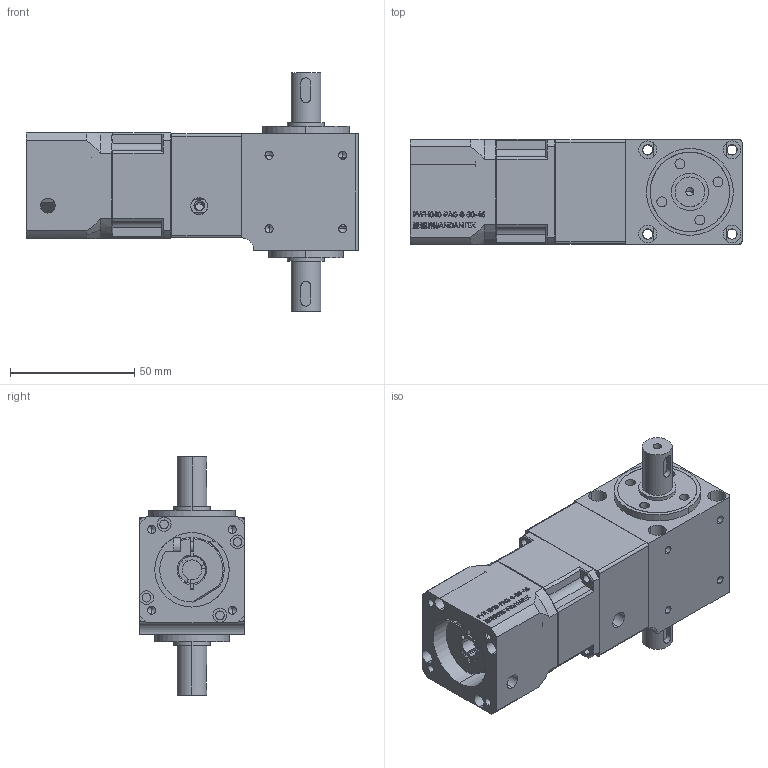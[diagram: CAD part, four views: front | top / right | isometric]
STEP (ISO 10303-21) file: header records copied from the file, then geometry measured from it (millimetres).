
FILE_DESCRIPTION (( 'STEP AP203' ), '1' );
FILE_NAME ('PVFH040邧粣-PAGS-8-30-46.STEP', '2023-07-11T08:24:07', ( 'Windows User' ), ( 'P R C' ), 'SwSTEP 2.0', 'SolidWorks 2016', '' );
FILE_SCHEMA (( 'CONFIG_CONTROL_DESIGN' ));
Length unit declared in the file: millimetre
Products named in the file (18): 綴楊擘ㄗ侂狟100Wㄘ; M3x12; 6001_Rolling bearings 6001 GB 276-94; 5X5X16; 6002_Rolling bearings 6002 GB 276-94; PAG040-L1; 61902_Rolling bearings 61902 GB 276-94; 褲极; 怀堤粣ㄗ邧粣ㄘ; 输入轴; PVFH040 双轴 （配伺服尺寸8-30-45-M3）; 蹟譫; PAG040-CQ01; PVFH040邧粣-PAGS-8-30-46; 蹟譫ㄗ2ㄘ; PAG040-WZZ-8-30-M4-46-LR28_1123; 標杶ㄗ1ㄘ; PAG040-SJH(坶踡遠謂11)
Assembly tree (17 placements, depth 3):
  PVFH040邧粣-PAGS-8-30-46
    PAG040-L1
      PAG040-CQ01
      PAG040-WZZ-8-30-M4-46-LR28_1123
      PAG040-SJH(坶踡遠謂11)
      M3x12
      5X5X16
    PVFH040 双轴 （配伺服尺寸8-30-45-M3）
      褲极
      输入轴
      蹟譫
      蹟譫ㄗ2ㄘ
      標杶ㄗ1ㄘ
      綴楊擘ㄗ侂狟100Wㄘ
      6001_Rolling bearings 6001 GB 276-94
      6002_Rolling bearings 6002 GB 276-94
      61902_Rolling bearings 61902 GB 276-94
      怀堤粣ㄗ邧粣ㄘ
Bounding box: 133.8 x 42.6 x 96 mm (x, y, z)
Volume: 197787.6 mm3; surface area: 88205.9 mm2
Topology: 17 solids, 17 shells, 1529 faces, 4619 edges, 2999 vertices
Faces by surface type: plane 621, cylinder 356, torus 182, bspline 163, cone 104, sphere 103
Entity records: 63338 total; most frequent: CARTESIAN_POINT 22968, ORIENTED_EDGE 8644, DIRECTION 7142, EDGE_CURVE 4322, VERTEX_POINT 2852, AXIS2_PLACEMENT_3D 2605, VECTOR 1932, LINE 1932
